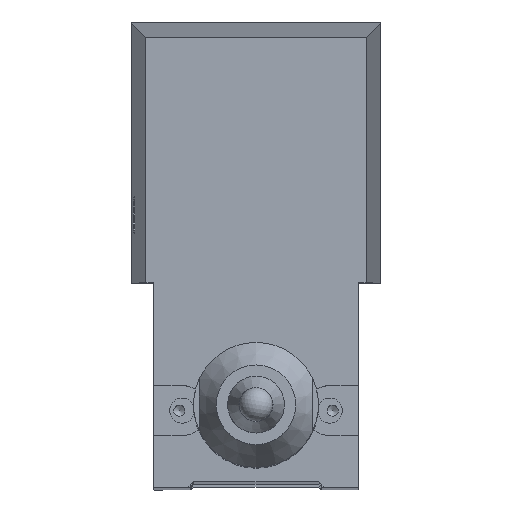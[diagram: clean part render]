
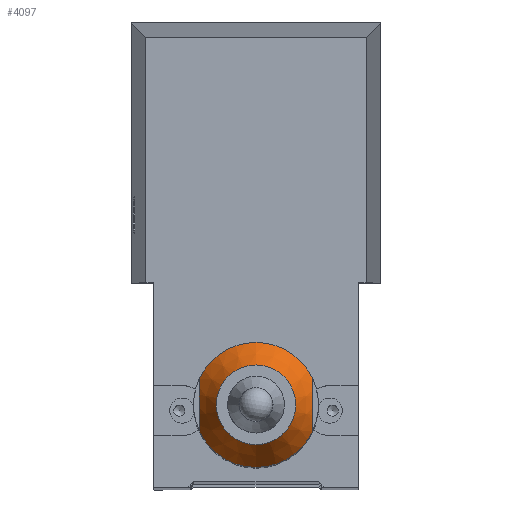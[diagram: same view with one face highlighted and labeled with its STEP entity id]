
A CAD part, top view. The second image highlights one B-rep face of the part: STEP entity #4097.
In plain terms, the highlighted conical face has half-angle 32.829 degrees and reference radius 5.5 mm.
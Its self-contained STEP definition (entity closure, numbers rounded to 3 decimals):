
#304 = CARTESIAN_POINT ( 'NONE',  ( -43.213, -5., 1.59 ) ) ;
#363 = EDGE_CURVE ( 'NONE', #3075, #8890, #3002, .T. ) ;
#611 = CARTESIAN_POINT ( 'NONE',  ( -43.021, 5., 1.948 ) ) ;
#676 = CARTESIAN_POINT ( 'NONE',  ( -43.556, 5., -0.405 ) ) ;
#1146 = CARTESIAN_POINT ( 'NONE',  ( -43.426, -5., -1.002 ) ) ;
#1372 = CARTESIAN_POINT ( 'NONE',  ( -43.481, -5., -0.805 ) ) ;
#2330 = ORIENTED_EDGE ( 'NONE', *, *, #9095, .T. ) ;
#2355 = CARTESIAN_POINT ( 'NONE',  ( -43.021, -5., 1.948 ) ) ;
#2386 = CARTESIAN_POINT ( 'NONE',  ( -43.426, 5., -1.002 ) ) ;
#2640 = CIRCLE ( 'NONE', #21442, 5.5 ) ;
#2760 = AXIS2_PLACEMENT_3D ( 'NONE', #7382, #19158, #9072 ) ;
#2840 = CONICAL_SURFACE ( 'NONE', #6550, 5.5, 0.573 ) ;
#3002 = B_SPLINE_CURVE_WITH_KNOTS ( 'NONE', 3,
 ( #17694, #7595, #19369, #1146, #1372, #11771, #16869, #13482, #3428, #20255, #20331, #304, #2355, #12372 ),
 .UNSPECIFIED., .F., .F.,
 ( 4, 2, 2, 2, 2, 2, 4 ),
 ( 0.008, 0.01, 0.01, 0.011, 0.011, 0.012, 0.013 ),
 .UNSPECIFIED. ) ;
#3075 = VERTEX_POINT ( 'NONE', #4375 ) ;
#3293 = DIRECTION ( 'NONE',  ( 0., 0., -1. ) ) ;
#3360 = CARTESIAN_POINT ( 'NONE',  ( -45.9, 0., 0. ) ) ;
#3428 = CARTESIAN_POINT ( 'NONE',  ( -43.555, -5., 0.414 ) ) ;
#3971 = CARTESIAN_POINT ( 'NONE',  ( -42.8, 5., 2.291 ) ) ;
#3977 = DIRECTION ( 'NONE',  ( -1., 0., 0. ) ) ;
#4041 = CARTESIAN_POINT ( 'NONE',  ( -43.021, 5., -1.948 ) ) ;
#4097 = ADVANCED_FACE ( 'NONE', ( #4956, #9926 ), #2840, .T. ) ;
#4375 = CARTESIAN_POINT ( 'NONE',  ( -42.8, -5., -2.291 ) ) ;
#4912 = CARTESIAN_POINT ( 'NONE',  ( -42.8, 0., 0. ) ) ;
#4956 = FACE_BOUND ( 'NONE', #6547, .T. ) ;
#5059 = DIRECTION ( 'NONE',  ( 0., 0., 1. ) ) ;
#6547 = EDGE_LOOP ( 'NONE', ( #17261 ) ) ;
#6550 = AXIS2_PLACEMENT_3D ( 'NONE', #4912, #9879, #3293 ) ;
#6841 = VERTEX_POINT ( 'NONE', #8314 ) ;
#7326 = CARTESIAN_POINT ( 'NONE',  ( -43.423, 5., 1.013 ) ) ;
#7382 = CARTESIAN_POINT ( 'NONE',  ( -42.8, 0., 0. ) ) ;
#7595 = CARTESIAN_POINT ( 'NONE',  ( -43.021, -5., -1.948 ) ) ;
#8093 = EDGE_LOOP ( 'NONE', ( #2330, #12377, #12211, #20310 ) ) ;
#8314 = CARTESIAN_POINT ( 'NONE',  ( -45.9, 0., 3.5 ) ) ;
#8890 = VERTEX_POINT ( 'NONE', #20435 ) ;
#9027 = CARTESIAN_POINT ( 'NONE',  ( -43.555, 5., 0.414 ) ) ;
#9072 = DIRECTION ( 'NONE',  ( 0., 0., 1. ) ) ;
#9095 = EDGE_CURVE ( 'NONE', #10533, #3075, #2640, .T. ) ;
#9879 = DIRECTION ( 'NONE',  ( 1., 0., 0. ) ) ;
#9926 = FACE_OUTER_BOUND ( 'NONE', #8093, .T. ) ;
#10167 = EDGE_CURVE ( 'NONE', #6841, #6841, #18898, .T. ) ;
#10533 = VERTEX_POINT ( 'NONE', #15562 ) ;
#10705 = CARTESIAN_POINT ( 'NONE',  ( -43.575, 5., -0.199 ) ) ;
#11771 = CARTESIAN_POINT ( 'NONE',  ( -43.556, -5., -0.405 ) ) ;
#12211 = ORIENTED_EDGE ( 'NONE', *, *, #19921, .T. ) ;
#12372 = CARTESIAN_POINT ( 'NONE',  ( -42.8, -5., 2.291 ) ) ;
#12377 = ORIENTED_EDGE ( 'NONE', *, *, #363, .T. ) ;
#12400 = CARTESIAN_POINT ( 'NONE',  ( -43.481, 5., -0.805 ) ) ;
#13482 = CARTESIAN_POINT ( 'NONE',  ( -43.575, -5., 0.211 ) ) ;
#14041 = CARTESIAN_POINT ( 'NONE',  ( -42.8, 0., 0. ) ) ;
#14095 = CARTESIAN_POINT ( 'NONE',  ( -43.217, 5., -1.582 ) ) ;
#14552 = EDGE_CURVE ( 'NONE', #17877, #10533, #17237, .T. ) ;
#14728 = CARTESIAN_POINT ( 'NONE',  ( -42.8, 5., 2.291 ) ) ;
#15118 = DIRECTION ( 'NONE',  ( -1., 0., 0. ) ) ;
#15562 = CARTESIAN_POINT ( 'NONE',  ( -42.8, 5., -2.291 ) ) ;
#15744 = DIRECTION ( 'NONE',  ( 0., 0., 1. ) ) ;
#15808 = CARTESIAN_POINT ( 'NONE',  ( -42.8, 5., -2.291 ) ) ;
#16869 = CARTESIAN_POINT ( 'NONE',  ( -43.575, -5., -0.199 ) ) ;
#17237 = B_SPLINE_CURVE_WITH_KNOTS ( 'NONE', 3,
 ( #3971, #611, #17425, #7326, #19101, #9027, #20765, #10705, #676, #12400, #2386, #14095, #4041, #15808 ),
 .UNSPECIFIED., .F., .F.,
 ( 4, 2, 2, 2, 2, 2, 4 ),
 ( 0.007, 0.008, 0.009, 0.009, 0.01, 0.01, 0.012 ),
 .UNSPECIFIED. ) ;
#17261 = ORIENTED_EDGE ( 'NONE', *, *, #10167, .F. ) ;
#17425 = CARTESIAN_POINT ( 'NONE',  ( -43.213, 5., 1.59 ) ) ;
#17694 = CARTESIAN_POINT ( 'NONE',  ( -42.8, -5., -2.291 ) ) ;
#17877 = VERTEX_POINT ( 'NONE', #14728 ) ;
#18472 = CIRCLE ( 'NONE', #2760, 5.5 ) ;
#18898 = CIRCLE ( 'NONE', #20622, 3.5 ) ;
#19101 = CARTESIAN_POINT ( 'NONE',  ( -43.479, 5., 0.814 ) ) ;
#19158 = DIRECTION ( 'NONE',  ( -1., 0., 0. ) ) ;
#19369 = CARTESIAN_POINT ( 'NONE',  ( -43.217, -5., -1.582 ) ) ;
#19921 = EDGE_CURVE ( 'NONE', #8890, #17877, #18472, .T. ) ;
#20255 = CARTESIAN_POINT ( 'NONE',  ( -43.479, -5., 0.814 ) ) ;
#20310 = ORIENTED_EDGE ( 'NONE', *, *, #14552, .T. ) ;
#20331 = CARTESIAN_POINT ( 'NONE',  ( -43.423, -5., 1.013 ) ) ;
#20435 = CARTESIAN_POINT ( 'NONE',  ( -42.8, -5., 2.291 ) ) ;
#20622 = AXIS2_PLACEMENT_3D ( 'NONE', #3360, #15118, #5059 ) ;
#20765 = CARTESIAN_POINT ( 'NONE',  ( -43.575, 5., 0.211 ) ) ;
#21442 = AXIS2_PLACEMENT_3D ( 'NONE', #14041, #3977, #15744 ) ;
